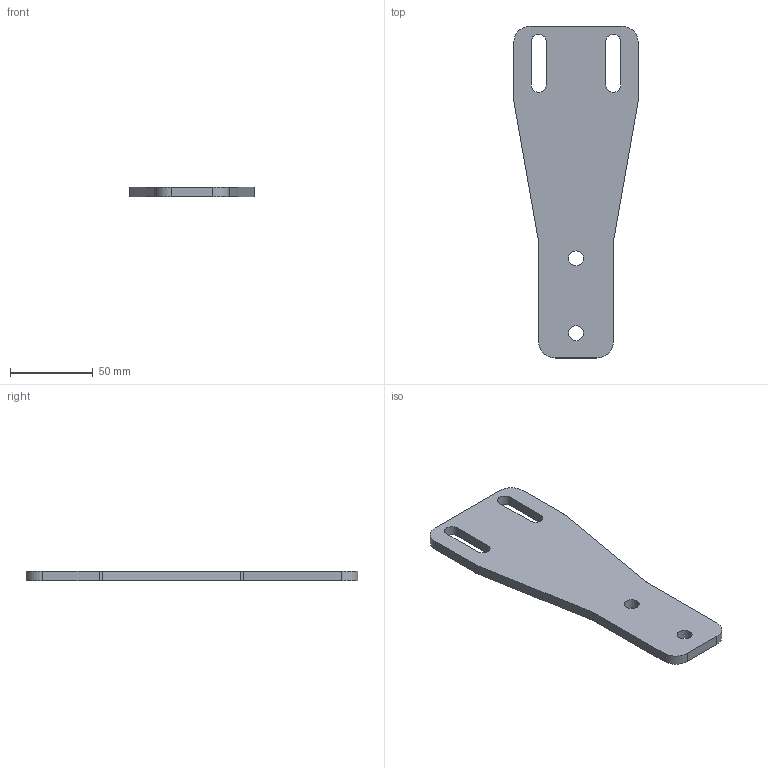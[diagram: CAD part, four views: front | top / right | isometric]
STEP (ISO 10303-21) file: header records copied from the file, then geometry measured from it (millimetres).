
FILE_DESCRIPTION (( 'STEP AP203' ), '1' );
FILE_NAME ('084.709.001.STEP', '2013-01-29T13:38:04', ( 'Alusic' ), ( 'Alusic' ), 'SwSTEP 2.0', 'SolidWorks 2011', '' );
FILE_SCHEMA (( 'CONFIG_CONTROL_DESIGN' ));
Length unit declared in the file: millimetre
Products named in the file (1): 084.709.001
Bounding box: 75 x 200 x 6 mm (x, y, z)
Volume: 64900.1 mm3; surface area: 25968.6 mm2
Topology: 1 solids, 1 shells, 30 faces, 84 edges, 56 vertices
Faces by surface type: cylinder 16, plane 14
Entity records: 1073 total; most frequent: DIRECTION 178, CARTESIAN_POINT 171, ORIENTED_EDGE 168, EDGE_CURVE 84, AXIS2_PLACEMENT_3D 63, VERTEX_POINT 56, VECTOR 52, LINE 52
